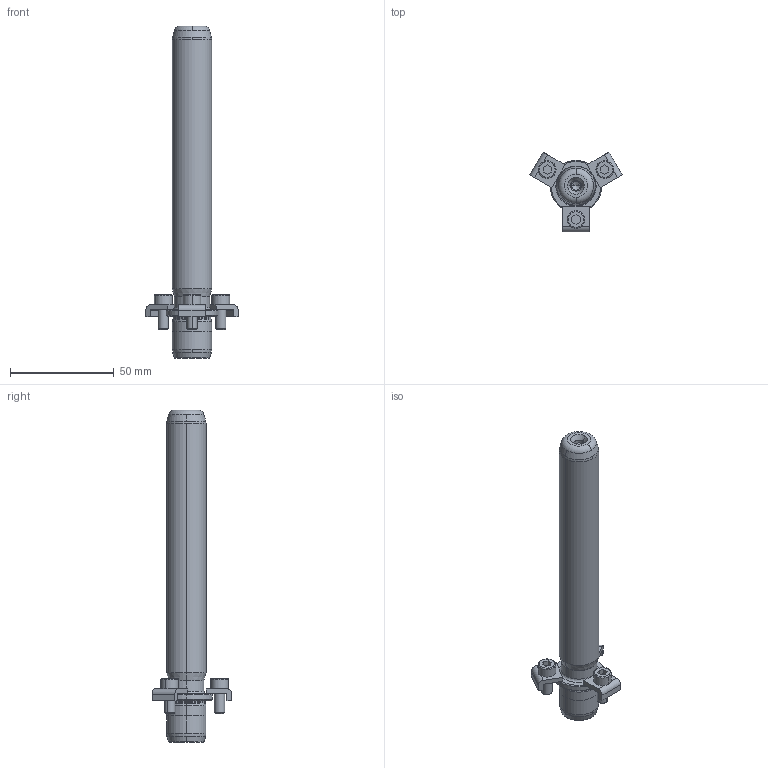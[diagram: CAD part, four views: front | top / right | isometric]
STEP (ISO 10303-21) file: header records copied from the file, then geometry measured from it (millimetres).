
FILE_DESCRIPTION((''),'2;1');
FILE_NAME('P21_019_140.stp','2008-12-18T10:52:33',(''),(''),'Mechanical Desktop 2009','Mechanical Desktop 2009',', , ');
FILE_SCHEMA(('CONFIG_CONTROL_DESIGN'));
Length unit declared in the file: millimetre
Products named in the file (2): Product; blmdl1
Assembly tree (1 placements, depth 2):
  Product
    blmdl1
Bounding box: 44.46 x 38.5 x 160 mm (x, y, z)
Volume: 47083.1 mm3; surface area: 13675.7 mm2
Topology: 7 solids, 7 shells, 163 faces, 399 edges, 257 vertices
Faces by surface type: plane 59, cylinder 44, cone 32, bspline 18, torus 10
Entity records: 5605 total; most frequent: CARTESIAN_POINT 1537, DIRECTION 900, ORIENTED_EDGE 790, EDGE_CURVE 395, AXIS2_PLACEMENT_3D 358, VERTEX_POINT 257, CIRCLE 211, VECTOR 184
